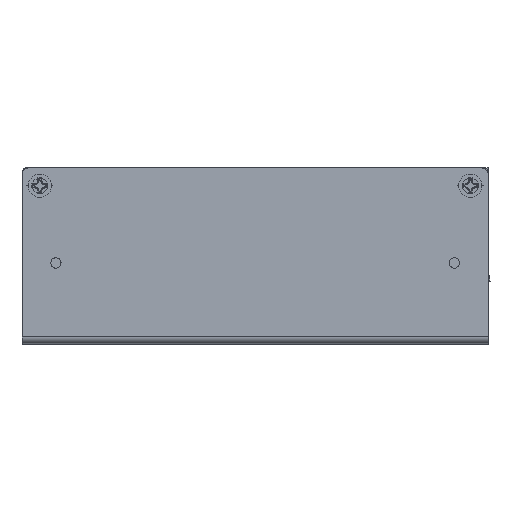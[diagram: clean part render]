
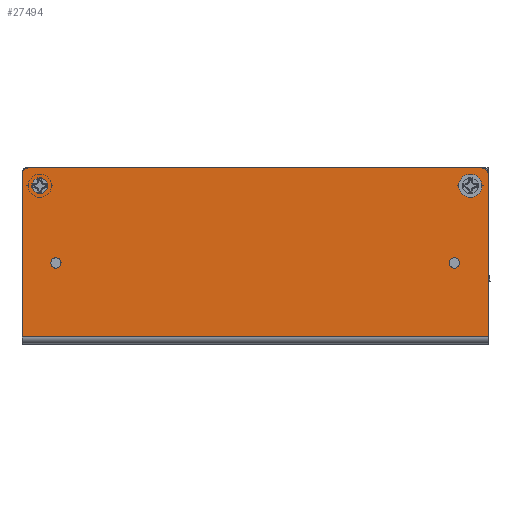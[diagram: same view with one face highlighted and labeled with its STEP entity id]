
A CAD part, top view. The second image highlights one B-rep face of the part: STEP entity #27494.
In plain terms, the highlighted planar face has unit normal (0, 0, 1).
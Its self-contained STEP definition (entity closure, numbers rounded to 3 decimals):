
#58 = CARTESIAN_POINT ( 'NONE',  ( 58.902, 21.163, 133.55 ) ) ;
#154 = CARTESIAN_POINT ( 'NONE',  ( 54.902, 21.788, 133.55 ) ) ;
#282 = DIRECTION ( 'NONE',  ( 0., 0., -1. ) ) ;
#546 = EDGE_LOOP ( 'NONE', ( #15975, #18194 ) ) ;
#1281 = CARTESIAN_POINT ( 'NONE',  ( -37.548, 6.338, 133.55 ) ) ;
#1369 = AXIS2_PLACEMENT_3D ( 'NONE', #12250, #15083, #3886 ) ;
#1414 = EDGE_LOOP ( 'NONE', ( #22129, #12305 ) ) ;
#1702 = CARTESIAN_POINT ( 'NONE',  ( 57.402, 27.538, 133.55 ) ) ;
#2712 = LINE ( 'NONE', #16169, #4520 ) ;
#2996 = CARTESIAN_POINT ( 'NONE',  ( 58.902, 27.538, 133.55 ) ) ;
#3376 = CIRCLE ( 'NONE', #11429, 1.5 ) ;
#3414 = CARTESIAN_POINT ( 'NONE',  ( 58.902, -10.162, 133.55 ) ) ;
#3886 = DIRECTION ( 'NONE',  ( 0., 1., 0. ) ) ;
#3978 = ORIENTED_EDGE ( 'NONE', *, *, #26787, .T. ) ;
#4081 = DIRECTION ( 'NONE',  ( -1., 0., 0. ) ) ;
#4307 = DIRECTION ( 'NONE',  ( 0., 1., 0. ) ) ;
#4520 = VECTOR ( 'NONE', #10371, 1000. ) ;
#4557 = VERTEX_POINT ( 'NONE', #13661 ) ;
#4592 = DIRECTION ( 'NONE',  ( 0., 0., -1. ) ) ;
#5160 = DIRECTION ( 'NONE',  ( 0., 0., -1. ) ) ;
#5451 = AXIS2_PLACEMENT_3D ( 'NONE', #33039, #5160, #36042 ) ;
#5564 = VERTEX_POINT ( 'NONE', #10926 ) ;
#5720 = VERTEX_POINT ( 'NONE', #3414 ) ;
#5932 = DIRECTION ( 'NONE',  ( 0., 0., 1. ) ) ;
#6079 = CIRCLE ( 'NONE', #1369, 1.75 ) ;
#6183 = ORIENTED_EDGE ( 'NONE', *, *, #19830, .T. ) ;
#6240 = VERTEX_POINT ( 'NONE', #8768 ) ;
#6260 = EDGE_CURVE ( 'NONE', #6240, #35651, #26502, .T. ) ;
#6628 = CIRCLE ( 'NONE', #22909, 1.5 ) ;
#6723 = AXIS2_PLACEMENT_3D ( 'NONE', #2996, #5932, #11358 ) ;
#6762 = DIRECTION ( 'NONE',  ( 0., 0., 1. ) ) ;
#8127 = AXIS2_PLACEMENT_3D ( 'NONE', #24063, #29453, #4307 ) ;
#8342 = EDGE_CURVE ( 'NONE', #32481, #32989, #6079, .T. ) ;
#8679 = ORIENTED_EDGE ( 'NONE', *, *, #23148, .T. ) ;
#8768 = CARTESIAN_POINT ( 'NONE',  ( 54.902, 25.288, 133.55 ) ) ;
#8830 = CARTESIAN_POINT ( 'NONE',  ( 51.352, 5.188, 133.55 ) ) ;
#8899 = DIRECTION ( 'NONE',  ( 0., 1., 0. ) ) ;
#9002 = CARTESIAN_POINT ( 'NONE',  ( -37.548, 5.188, 133.55 ) ) ;
#9060 = AXIS2_PLACEMENT_3D ( 'NONE', #34049, #282, #28617 ) ;
#9217 = VERTEX_POINT ( 'NONE', #19229 ) ;
#9356 = VERTEX_POINT ( 'NONE', #8830 ) ;
#9750 = AXIS2_PLACEMENT_3D ( 'NONE', #30690, #22042, #13889 ) ;
#10020 = CARTESIAN_POINT ( 'NONE',  ( 51.352, 7.488, 133.55 ) ) ;
#10371 = DIRECTION ( 'NONE',  ( -1., 0., 0. ) ) ;
#10793 = EDGE_CURVE ( 'NONE', #16370, #9217, #20042, .T. ) ;
#10926 = CARTESIAN_POINT ( 'NONE',  ( -45.098, 26.038, 133.55 ) ) ;
#11094 = ORIENTED_EDGE ( 'NONE', *, *, #12583, .F. ) ;
#11138 = CIRCLE ( 'NONE', #15095, 1.15 ) ;
#11358 = DIRECTION ( 'NONE',  ( 0., 1., 0. ) ) ;
#11429 = AXIS2_PLACEMENT_3D ( 'NONE', #29589, #6762, #4081 ) ;
#11491 = EDGE_CURVE ( 'NONE', #17628, #9356, #15099, .T. ) ;
#12250 = CARTESIAN_POINT ( 'NONE',  ( -41.098, 23.538, 133.55 ) ) ;
#12305 = ORIENTED_EDGE ( 'NONE', *, *, #22713, .T. ) ;
#12583 = EDGE_CURVE ( 'NONE', #5720, #4557, #2712, .T. ) ;
#13339 = DIRECTION ( 'NONE',  ( 0., 0., 1. ) ) ;
#13502 = LINE ( 'NONE', #22475, #16163 ) ;
#13581 = DIRECTION ( 'NONE',  ( -1., 0., 0. ) ) ;
#13661 = CARTESIAN_POINT ( 'NONE',  ( -45.098, -10.162, 133.55 ) ) ;
#13889 = DIRECTION ( 'NONE',  ( 0., 1., 0. ) ) ;
#14101 = EDGE_CURVE ( 'NONE', #4557, #5564, #25190, .T. ) ;
#14192 = DIRECTION ( 'NONE',  ( 0., 1., 0. ) ) ;
#14849 = FACE_BOUND ( 'NONE', #16635, .T. ) ;
#15083 = DIRECTION ( 'NONE',  ( 0., 0., -1. ) ) ;
#15095 = AXIS2_PLACEMENT_3D ( 'NONE', #35092, #15191, #29386 ) ;
#15099 = CIRCLE ( 'NONE', #5451, 1.15 ) ;
#15191 = DIRECTION ( 'NONE',  ( 0., 0., -1. ) ) ;
#15601 = ORIENTED_EDGE ( 'NONE', *, *, #8342, .T. ) ;
#15975 = ORIENTED_EDGE ( 'NONE', *, *, #34998, .T. ) ;
#16163 = VECTOR ( 'NONE', #13581, 1000. ) ;
#16169 = CARTESIAN_POINT ( 'NONE',  ( 58.902, -10.162, 133.55 ) ) ;
#16370 = VERTEX_POINT ( 'NONE', #9002 ) ;
#16635 = EDGE_LOOP ( 'NONE', ( #15601, #3978 ) ) ;
#17209 = VECTOR ( 'NONE', #29082, 1000. ) ;
#17237 = CARTESIAN_POINT ( 'NONE',  ( -41.098, 25.288, 133.55 ) ) ;
#17628 = VERTEX_POINT ( 'NONE', #10020 ) ;
#17940 = FACE_BOUND ( 'NONE', #1414, .T. ) ;
#18194 = ORIENTED_EDGE ( 'NONE', *, *, #10793, .T. ) ;
#19229 = CARTESIAN_POINT ( 'NONE',  ( -37.548, 7.488, 133.55 ) ) ;
#19245 = FACE_BOUND ( 'NONE', #546, .T. ) ;
#19623 = EDGE_CURVE ( 'NONE', #23047, #5564, #3376, .T. ) ;
#19830 = EDGE_CURVE ( 'NONE', #35651, #6240, #20103, .T. ) ;
#20042 = CIRCLE ( 'NONE', #22689, 1.15 ) ;
#20103 = CIRCLE ( 'NONE', #9060, 1.75 ) ;
#20153 = CARTESIAN_POINT ( 'NONE',  ( 54.902, 23.538, 133.55 ) ) ;
#20699 = CARTESIAN_POINT ( 'NONE',  ( -41.098, 21.788, 133.55 ) ) ;
#20701 = EDGE_LOOP ( 'NONE', ( #29727, #6183 ) ) ;
#21615 = CARTESIAN_POINT ( 'NONE',  ( 57.402, 26.038, 133.55 ) ) ;
#22042 = DIRECTION ( 'NONE',  ( 0., 0., -1. ) ) ;
#22129 = ORIENTED_EDGE ( 'NONE', *, *, #11491, .T. ) ;
#22475 = CARTESIAN_POINT ( 'NONE',  ( 58.902, 27.538, 133.55 ) ) ;
#22689 = AXIS2_PLACEMENT_3D ( 'NONE', #1281, #4592, #23841 ) ;
#22713 = EDGE_CURVE ( 'NONE', #9356, #17628, #11138, .T. ) ;
#22909 = AXIS2_PLACEMENT_3D ( 'NONE', #21615, #13339, #24486 ) ;
#23047 = VERTEX_POINT ( 'NONE', #33950 ) ;
#23148 = EDGE_CURVE ( 'NONE', #5720, #26211, #29647, .T. ) ;
#23231 = CIRCLE ( 'NONE', #8127, 1.75 ) ;
#23421 = CARTESIAN_POINT ( 'NONE',  ( -45.098, 21.163, 133.55 ) ) ;
#23841 = DIRECTION ( 'NONE',  ( 0., 1., 0. ) ) ;
#24063 = CARTESIAN_POINT ( 'NONE',  ( -41.098, 23.538, 133.55 ) ) ;
#24486 = DIRECTION ( 'NONE',  ( 1., 0., 0. ) ) ;
#25190 = LINE ( 'NONE', #23421, #17209 ) ;
#25443 = CIRCLE ( 'NONE', #9750, 1.15 ) ;
#25492 = FACE_BOUND ( 'NONE', #20701, .T. ) ;
#25658 = VERTEX_POINT ( 'NONE', #1702 ) ;
#25868 = DIRECTION ( 'NONE',  ( 0., 0., -1. ) ) ;
#26211 = VERTEX_POINT ( 'NONE', #33075 ) ;
#26502 = CIRCLE ( 'NONE', #33454, 1.75 ) ;
#26787 = EDGE_CURVE ( 'NONE', #32989, #32481, #23231, .T. ) ;
#27331 = EDGE_CURVE ( 'NONE', #25658, #23047, #13502, .T. ) ;
#27494 = ADVANCED_FACE ( 'NONE', ( #35631, #14849, #25492, #19245, #17940 ), #28763, .T. ) ;
#28356 = ORIENTED_EDGE ( 'NONE', *, *, #27331, .T. ) ;
#28617 = DIRECTION ( 'NONE',  ( 0., 1., 0. ) ) ;
#28763 = PLANE ( 'NONE',  #6723 ) ;
#29082 = DIRECTION ( 'NONE',  ( 0., 1., 0. ) ) ;
#29208 = VECTOR ( 'NONE', #14192, 1000. ) ;
#29386 = DIRECTION ( 'NONE',  ( 0., 1., 0. ) ) ;
#29453 = DIRECTION ( 'NONE',  ( 0., 0., -1. ) ) ;
#29589 = CARTESIAN_POINT ( 'NONE',  ( -43.598, 26.038, 133.55 ) ) ;
#29647 = LINE ( 'NONE', #58, #29208 ) ;
#29727 = ORIENTED_EDGE ( 'NONE', *, *, #6260, .T. ) ;
#30690 = CARTESIAN_POINT ( 'NONE',  ( -37.548, 6.338, 133.55 ) ) ;
#30959 = ORIENTED_EDGE ( 'NONE', *, *, #14101, .F. ) ;
#31638 = EDGE_CURVE ( 'NONE', #26211, #25658, #6628, .T. ) ;
#32481 = VERTEX_POINT ( 'NONE', #17237 ) ;
#32989 = VERTEX_POINT ( 'NONE', #20699 ) ;
#33039 = CARTESIAN_POINT ( 'NONE',  ( 51.352, 6.338, 133.55 ) ) ;
#33075 = CARTESIAN_POINT ( 'NONE',  ( 58.902, 26.038, 133.55 ) ) ;
#33454 = AXIS2_PLACEMENT_3D ( 'NONE', #20153, #25868, #8899 ) ;
#33950 = CARTESIAN_POINT ( 'NONE',  ( -43.598, 27.538, 133.55 ) ) ;
#34049 = CARTESIAN_POINT ( 'NONE',  ( 54.902, 23.538, 133.55 ) ) ;
#34077 = EDGE_LOOP ( 'NONE', ( #8679, #34535, #28356, #34769, #30959, #11094 ) ) ;
#34535 = ORIENTED_EDGE ( 'NONE', *, *, #31638, .T. ) ;
#34769 = ORIENTED_EDGE ( 'NONE', *, *, #19623, .T. ) ;
#34998 = EDGE_CURVE ( 'NONE', #9217, #16370, #25443, .T. ) ;
#35092 = CARTESIAN_POINT ( 'NONE',  ( 51.352, 6.338, 133.55 ) ) ;
#35631 = FACE_OUTER_BOUND ( 'NONE', #34077, .T. ) ;
#35651 = VERTEX_POINT ( 'NONE', #154 ) ;
#36042 = DIRECTION ( 'NONE',  ( 0., 1., 0. ) ) ;
